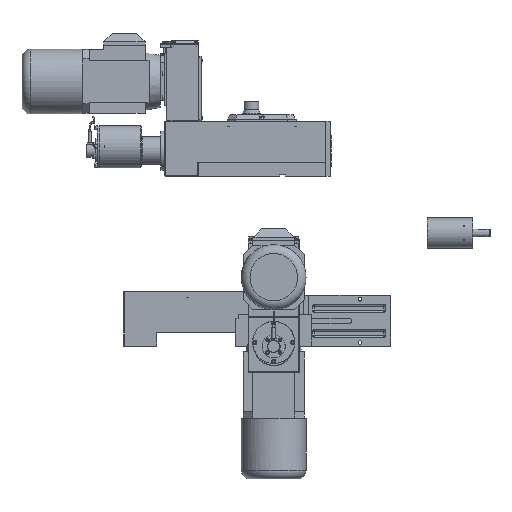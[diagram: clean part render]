
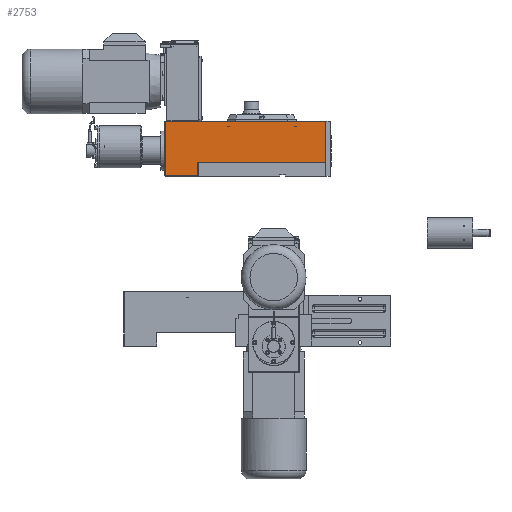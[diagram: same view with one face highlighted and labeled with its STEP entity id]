
A CAD part, front view. The second image highlights one B-rep face of the part: STEP entity #2753.
In plain terms, the highlighted planar face has unit normal (0, -1, 0).
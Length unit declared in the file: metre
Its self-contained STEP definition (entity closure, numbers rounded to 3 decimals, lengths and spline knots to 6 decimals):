
#2753 = ADVANCED_FACE( '', ( #3941 ), #3942, .T. );
#3941 = FACE_OUTER_BOUND( '', #6346, .T. );
#3942 = PLANE( '', #6347 );
#6346 = EDGE_LOOP( '', ( #9975, #9976, #9977, #9978, #9979, #9980 ) );
#6347 = AXIS2_PLACEMENT_3D( '', #9981, #9982, #9983 );
#9975 = ORIENTED_EDGE( '', *, *, #16808, .F. );
#9976 = ORIENTED_EDGE( '', *, *, #16824, .F. );
#9977 = ORIENTED_EDGE( '', *, *, #16822, .F. );
#9978 = ORIENTED_EDGE( '', *, *, #16823, .F. );
#9979 = ORIENTED_EDGE( '', *, *, #16803, .T. );
#9980 = ORIENTED_EDGE( '', *, *, #16825, .T. );
#9981 = CARTESIAN_POINT( '', ( 0.025, -0.019444, 0. ) );
#9982 = DIRECTION( '', ( 0., -1., 0. ) );
#9983 = DIRECTION( '', ( 0., 0., -1. ) );
#16803 = EDGE_CURVE( '', #18953, #18951, #18954, .T. );
#16808 = EDGE_CURVE( '', #18961, #18956, #18963, .T. );
#16822 = EDGE_CURVE( '', #18920, #18984, #18987, .T. );
#16823 = EDGE_CURVE( '', #18953, #18920, #18988, .T. );
#16824 = EDGE_CURVE( '', #18984, #18961, #18989, .T. );
#16825 = EDGE_CURVE( '', #18951, #18956, #18990, .T. );
#18920 = VERTEX_POINT( '', #22398 );
#18951 = VERTEX_POINT( '', #22444 );
#18953 = VERTEX_POINT( '', #22447 );
#18954 = LINE( '', #22448, #22449 );
#18956 = VERTEX_POINT( '', #22452 );
#18961 = VERTEX_POINT( '', #22459 );
#18963 = LINE( '', #22462, #22463 );
#18984 = VERTEX_POINT( '', #22495 );
#18987 = LINE( '', #22500, #22501 );
#18988 = LINE( '', #22502, #22503 );
#18989 = LINE( '', #22504, #22505 );
#18990 = LINE( '', #22506, #22507 );
#22398 = CARTESIAN_POINT( '', ( -0.3465, -0.019444, 0.0005 ) );
#22444 = CARTESIAN_POINT( '', ( -0.271, -0.019444, 0.032 ) );
#22447 = CARTESIAN_POINT( '', ( -0.271, -0.019444, 0.0005 ) );
#22448 = CARTESIAN_POINT( '', ( -0.271, -0.019444, 0. ) );
#22449 = VECTOR( '', #28814, 1. );
#22452 = CARTESIAN_POINT( '', ( 0.0245, -0.019444, 0.032 ) );
#22459 = CARTESIAN_POINT( '', ( 0.0245, -0.019444, 0.1265 ) );
#22462 = CARTESIAN_POINT( '', ( 0.0245, -0.019444, 0. ) );
#22463 = VECTOR( '', #28819, 1. );
#22495 = CARTESIAN_POINT( '', ( -0.3465, -0.019444, 0.1265 ) );
#22500 = CARTESIAN_POINT( '', ( -0.3465, -0.019444, 0. ) );
#22501 = VECTOR( '', #28833, 1. );
#22502 = CARTESIAN_POINT( '', ( -0.068, -0.019444, 0.0005 ) );
#22503 = VECTOR( '', #28834, 1. );
#22504 = CARTESIAN_POINT( '', ( -0.068, -0.019444, 0.1265 ) );
#22505 = VECTOR( '', #28835, 1. );
#22506 = CARTESIAN_POINT( '', ( -0.049, -0.019444, 0.032 ) );
#22507 = VECTOR( '', #28836, 1. );
#28814 = DIRECTION( '', ( 0., 0., 1. ) );
#28819 = DIRECTION( '', ( 0., 0., -1. ) );
#28833 = DIRECTION( '', ( 0., 0., 1. ) );
#28834 = DIRECTION( '', ( -1., 0., 0. ) );
#28835 = DIRECTION( '', ( 1., 0., 0. ) );
#28836 = DIRECTION( '', ( 1., 0., 0. ) );
